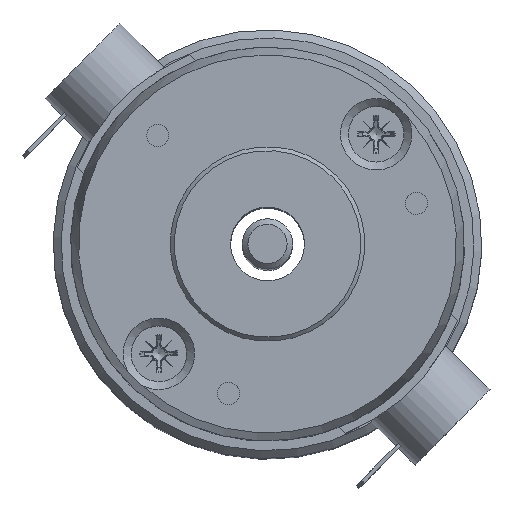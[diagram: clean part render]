
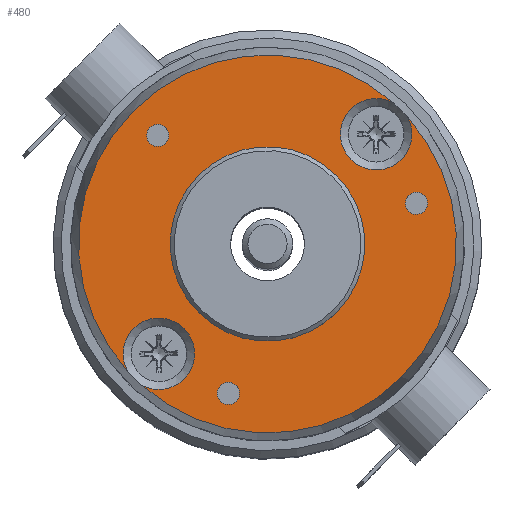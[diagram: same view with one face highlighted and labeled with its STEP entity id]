
A CAD part, top view. The second image highlights one B-rep face of the part: STEP entity #480.
In plain terms, the highlighted planar face has unit normal (0, 0, 1).
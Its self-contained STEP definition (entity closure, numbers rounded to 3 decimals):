
#316=CARTESIAN_POINT('',(16.14,-10.935,20.0));
#317=VERTEX_POINT('',#316);
#318=CARTESIAN_POINT('',(16.84,-9.722,20.0));
#319=DIRECTION('',(0.0,0.0,-1.0));
#320=DIRECTION('',(-0.5,-0.866,0.0));
#321=AXIS2_PLACEMENT_3D('',#318,#319,#320);
#322=CIRCLE('',#321,1.4);
#323=EDGE_CURVE('',#317,#317,#322,.T.);
#336=CARTESIAN_POINT('',(-17.54,-8.51,20.0));
#337=VERTEX_POINT('',#336);
#338=CARTESIAN_POINT('',(-16.84,-9.723,20.0));
#339=DIRECTION('',(0.0,0.0,-1.));
#340=DIRECTION('',(-0.5,0.866,0.0));
#341=AXIS2_PLACEMENT_3D('',#338,#339,#340);
#342=CIRCLE('',#341,1.4);
#343=EDGE_CURVE('',#337,#337,#342,.T.);
#356=CARTESIAN_POINT('',(1.4,19.445,20.0));
#357=VERTEX_POINT('',#356);
#358=CARTESIAN_POINT('',(0.,19.445,20.0));
#359=DIRECTION('',(0.0,0.0,-1.0));
#360=DIRECTION('',(1.0,0.0,0.0));
#361=AXIS2_PLACEMENT_3D('',#358,#359,#360);
#362=CIRCLE('',#361,1.4);
#363=EDGE_CURVE('',#357,#357,#362,.T.);
#373=CARTESIAN_POINT('',(23.767,1.253,20.));
#374=VERTEX_POINT('',#373);
#375=CARTESIAN_POINT('',(23.767,-1.253,20.));
#376=VERTEX_POINT('',#375);
#386=CARTESIAN_POINT('',(19.445,0.,20.0));
#387=DIRECTION('',(0.0,0.0,-1.0));
#388=DIRECTION('',(-1.0,0.0,0.0));
#389=AXIS2_PLACEMENT_3D('',#386,#387,#388);
#390=CIRCLE('',#389,4.5);
#391=EDGE_CURVE('',#376,#374,#390,.T.);
#427=CARTESIAN_POINT('',(0.0,0.0,20.0));
#428=DIRECTION('',(0.0,0.0,-1.0));
#429=DIRECTION('',(-1.0,0.0,0.0));
#430=AXIS2_PLACEMENT_3D('',#427,#428,#429);
#431=PLANE('',#430);
#432=ORIENTED_EDGE('',*,*,#391,.T.);
#433=CARTESIAN_POINT('',(-23.767,1.253,20.0));
#434=VERTEX_POINT('',#433);
#435=CARTESIAN_POINT('',(0.0,0.0,20.0));
#436=DIRECTION('',(0.0,0.0,-1.0));
#437=DIRECTION('',(-1.0,0.0,0.0));
#438=AXIS2_PLACEMENT_3D('',#435,#436,#437);
#439=CIRCLE('',#438,23.8);
#440=EDGE_CURVE('',#434,#374,#439,.T.);
#441=ORIENTED_EDGE('',*,*,#440,.F.);
#442=CARTESIAN_POINT('',(-23.767,-1.253,20.0));
#443=VERTEX_POINT('',#442);
#444=CARTESIAN_POINT('',(-19.445,0.,20.0));
#445=DIRECTION('',(0.0,0.0,-1.0));
#446=DIRECTION('',(1.0,0.0,0.0));
#447=AXIS2_PLACEMENT_3D('',#444,#445,#446);
#448=CIRCLE('',#447,4.5);
#449=EDGE_CURVE('',#434,#443,#448,.T.);
#450=ORIENTED_EDGE('',*,*,#449,.T.);
#451=CARTESIAN_POINT('',(0.0,0.0,20.0));
#452=DIRECTION('',(0.0,0.0,-1.0));
#453=DIRECTION('',(-1.0,0.0,0.0));
#454=AXIS2_PLACEMENT_3D('',#451,#452,#453);
#455=CIRCLE('',#454,23.8);
#456=EDGE_CURVE('',#376,#443,#455,.T.);
#457=ORIENTED_EDGE('',*,*,#456,.F.);
#458=EDGE_LOOP('',(#432,#441,#450,#457));
#459=FACE_OUTER_BOUND('',#458,.T.);
#460=ORIENTED_EDGE('',*,*,#323,.T.);
#461=EDGE_LOOP('',(#460));
#462=FACE_BOUND('',#461,.T.);
#463=ORIENTED_EDGE('',*,*,#343,.T.);
#464=EDGE_LOOP('',(#463));
#465=FACE_BOUND('',#464,.T.);
#466=ORIENTED_EDGE('',*,*,#363,.T.);
#467=EDGE_LOOP('',(#466));
#468=FACE_BOUND('',#467,.T.);
#469=CARTESIAN_POINT('',(12.25,0.,20.0));
#470=VERTEX_POINT('',#469);
#471=CARTESIAN_POINT('',(0.0,0.0,20.0));
#472=DIRECTION('',(0.0,0.0,-1.0));
#473=DIRECTION('',(-1.0,0.0,0.0));
#474=AXIS2_PLACEMENT_3D('',#471,#472,#473);
#475=CIRCLE('',#474,12.25);
#476=EDGE_CURVE('',#470,#470,#475,.T.);
#477=ORIENTED_EDGE('',*,*,#476,.T.);
#478=EDGE_LOOP('',(#477));
#479=FACE_BOUND('',#478,.T.);
#480=ADVANCED_FACE('',(#459,#462,#465,#468,#479),#431,.F.);
